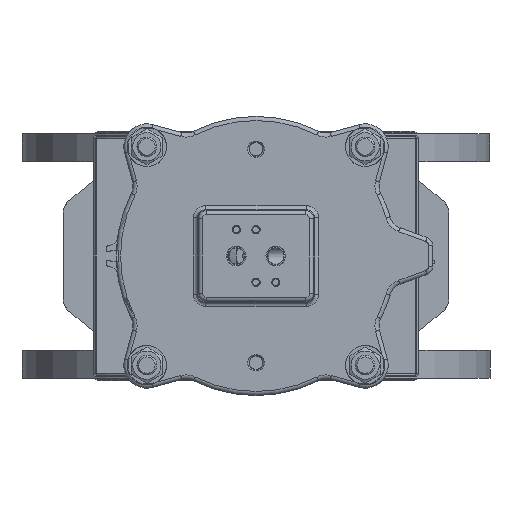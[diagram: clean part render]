
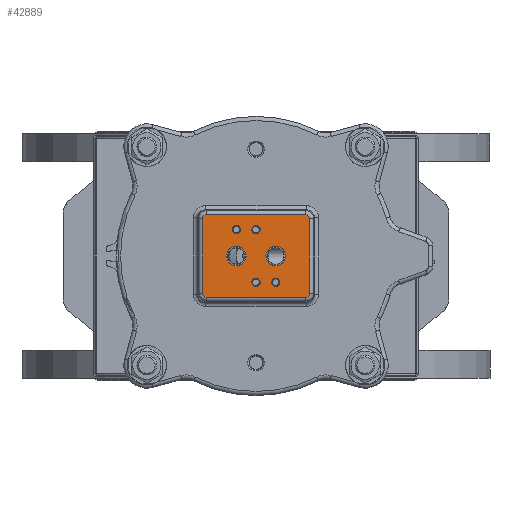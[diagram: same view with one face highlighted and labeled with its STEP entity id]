
A CAD part, left-side view. The second image highlights one B-rep face of the part: STEP entity #42889.
In plain terms, the highlighted planar face has unit normal (-1, 0, 0).
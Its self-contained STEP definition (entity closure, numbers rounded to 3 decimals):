
#1446=ELLIPSE('',#47815,2.519,2.5);
#1447=ELLIPSE('',#47816,2.519,2.5);
#1448=ELLIPSE('',#47817,2.519,2.5);
#1449=ELLIPSE('',#47818,2.519,2.5);
#1856=FACE_BOUND('',#13199,.T.);
#1857=FACE_BOUND('',#13200,.T.);
#1858=FACE_BOUND('',#13201,.T.);
#1859=FACE_BOUND('',#13202,.T.);
#1860=FACE_BOUND('',#13203,.T.);
#1861=FACE_BOUND('',#13204,.T.);
#3371=PLANE('',#47814);
#5329=LINE('',#87531,#7424);
#5330=LINE('',#87535,#7425);
#5331=LINE('',#87539,#7426);
#5332=LINE('',#87542,#7427);
#7424=VECTOR('',#59495,10.);
#7425=VECTOR('',#59498,10.);
#7426=VECTOR('',#59501,10.);
#7427=VECTOR('',#59504,10.);
#10359=FACE_OUTER_BOUND('',#13198,.T.);
#13198=EDGE_LOOP('',(#37920,#37921,#37922,#37923,#37924,#37925,#37926,#37927));
#13199=EDGE_LOOP('',(#37928));
#13200=EDGE_LOOP('',(#37929));
#13201=EDGE_LOOP('',(#37930));
#13202=EDGE_LOOP('',(#37931));
#13203=EDGE_LOOP('',(#37932));
#13204=EDGE_LOOP('',(#37933));
#16108=CIRCLE('',#47813,2.5);
#16109=CIRCLE('',#47819,2.5);
#16110=CIRCLE('',#47820,2.5);
#16111=CIRCLE('',#47821,6.);
#16112=CIRCLE('',#47822,6.);
#16113=CIRCLE('',#47823,2.5);
#20227=VERTEX_POINT('',#87523);
#20228=VERTEX_POINT('',#87527);
#20229=VERTEX_POINT('',#87528);
#20230=VERTEX_POINT('',#87530);
#20231=VERTEX_POINT('',#87532);
#20232=VERTEX_POINT('',#87534);
#20233=VERTEX_POINT('',#87536);
#20234=VERTEX_POINT('',#87538);
#20235=VERTEX_POINT('',#87540);
#20236=VERTEX_POINT('',#87543);
#20237=VERTEX_POINT('',#87545);
#20238=VERTEX_POINT('',#87547);
#20239=VERTEX_POINT('',#87549);
#20240=VERTEX_POINT('',#87551);
#26266=EDGE_CURVE('',#20227,#20227,#16108,.T.);
#26267=EDGE_CURVE('',#20228,#20229,#1446,.T.);
#26268=EDGE_CURVE('',#20230,#20228,#5329,.T.);
#26269=EDGE_CURVE('',#20231,#20230,#1447,.T.);
#26270=EDGE_CURVE('',#20232,#20231,#5330,.T.);
#26271=EDGE_CURVE('',#20233,#20232,#1448,.T.);
#26272=EDGE_CURVE('',#20234,#20233,#5331,.T.);
#26273=EDGE_CURVE('',#20235,#20234,#1449,.T.);
#26274=EDGE_CURVE('',#20229,#20235,#5332,.T.);
#26275=EDGE_CURVE('',#20236,#20236,#16109,.T.);
#26276=EDGE_CURVE('',#20237,#20237,#16110,.T.);
#26277=EDGE_CURVE('',#20238,#20238,#16111,.T.);
#26278=EDGE_CURVE('',#20239,#20239,#16112,.T.);
#26279=EDGE_CURVE('',#20240,#20240,#16113,.T.);
#37920=ORIENTED_EDGE('',*,*,#26267,.F.);
#37921=ORIENTED_EDGE('',*,*,#26268,.F.);
#37922=ORIENTED_EDGE('',*,*,#26269,.F.);
#37923=ORIENTED_EDGE('',*,*,#26270,.F.);
#37924=ORIENTED_EDGE('',*,*,#26271,.F.);
#37925=ORIENTED_EDGE('',*,*,#26272,.F.);
#37926=ORIENTED_EDGE('',*,*,#26273,.F.);
#37927=ORIENTED_EDGE('',*,*,#26274,.F.);
#37928=ORIENTED_EDGE('',*,*,#26275,.F.);
#37929=ORIENTED_EDGE('',*,*,#26276,.F.);
#37930=ORIENTED_EDGE('',*,*,#26277,.F.);
#37931=ORIENTED_EDGE('',*,*,#26278,.F.);
#37932=ORIENTED_EDGE('',*,*,#26279,.F.);
#37933=ORIENTED_EDGE('',*,*,#26266,.F.);
#42889=ADVANCED_FACE('',(#10359,#1856,#1857,#1858,#1859,#1860,#1861),#3371,
 .F.);
#47813=AXIS2_PLACEMENT_3D('',#87525,#59489,#59490);
#47814=AXIS2_PLACEMENT_3D('',#87526,#59491,#59492);
#47815=AXIS2_PLACEMENT_3D('',#87529,#59493,#59494);
#47816=AXIS2_PLACEMENT_3D('',#87533,#59496,#59497);
#47817=AXIS2_PLACEMENT_3D('',#87537,#59499,#59500);
#47818=AXIS2_PLACEMENT_3D('',#87541,#59502,#59503);
#47819=AXIS2_PLACEMENT_3D('',#87544,#59505,#59506);
#47820=AXIS2_PLACEMENT_3D('',#87546,#59507,#59508);
#47821=AXIS2_PLACEMENT_3D('',#87548,#59509,#59510);
#47822=AXIS2_PLACEMENT_3D('',#87550,#59511,#59512);
#47823=AXIS2_PLACEMENT_3D('',#87552,#59513,#59514);
#59489=DIRECTION('center_axis',(-1.,0.,0.));
#59490=DIRECTION('ref_axis',(0.,1.,0.));
#59491=DIRECTION('center_axis',(1.,0.,0.));
#59492=DIRECTION('ref_axis',(0.,1.,0.));
#59493=DIRECTION('center_axis',(1.,0.,0.));
#59494=DIRECTION('ref_axis',(0.,-0.707,-0.707));
#59495=DIRECTION('',(0.,0.,-1.));
#59496=DIRECTION('center_axis',(1.,0.,0.));
#59497=DIRECTION('ref_axis',(0.,-0.707,0.707));
#59498=DIRECTION('',(0.,-1.,0.));
#59499=DIRECTION('center_axis',(1.,0.,0.));
#59500=DIRECTION('ref_axis',(0.,0.707,0.707));
#59501=DIRECTION('',(0.,0.,1.));
#59502=DIRECTION('center_axis',(1.,0.,0.));
#59503=DIRECTION('ref_axis',(0.,0.707,-0.707));
#59504=DIRECTION('',(0.,1.,0.));
#59505=DIRECTION('center_axis',(-1.,0.,0.));
#59506=DIRECTION('ref_axis',(0.,1.,0.));
#59507=DIRECTION('center_axis',(-1.,0.,0.));
#59508=DIRECTION('ref_axis',(0.,1.,0.));
#59509=DIRECTION('center_axis',(-1.,0.,0.));
#59510=DIRECTION('ref_axis',(0.,1.,0.));
#59511=DIRECTION('center_axis',(-1.,0.,0.));
#59512=DIRECTION('ref_axis',(0.,1.,0.));
#59513=DIRECTION('center_axis',(-1.,0.,0.));
#59514=DIRECTION('ref_axis',(0.,1.,0.));
#87523=CARTESIAN_POINT('',(-990.5,9.5,16.));
#87525=CARTESIAN_POINT('Origin',(-990.5,12.,16.));
#87526=CARTESIAN_POINT('Origin',(-990.5,0.,
0.));
#87527=CARTESIAN_POINT('',(-990.5,-32.709,-22.719));
#87528=CARTESIAN_POINT('',(-990.5,-30.219,-25.209));
#87529=CARTESIAN_POINT('Origin',(-990.5,-30.2,-22.7));
#87530=CARTESIAN_POINT('',(-990.5,-32.709,22.719));
#87531=CARTESIAN_POINT('',(-990.5,-32.709,-13.75));
#87532=CARTESIAN_POINT('',(-990.5,-30.219,25.209));
#87533=CARTESIAN_POINT('Origin',(-990.5,-30.2,22.7));
#87534=CARTESIAN_POINT('',(-990.5,30.219,25.209));
#87535=CARTESIAN_POINT('',(-990.5,-17.5,25.209));
#87536=CARTESIAN_POINT('',(-990.5,32.709,22.719));
#87537=CARTESIAN_POINT('Origin',(-990.5,30.2,22.7));
#87538=CARTESIAN_POINT('',(-990.5,32.709,-22.719));
#87539=CARTESIAN_POINT('',(-990.5,32.709,13.75));
#87540=CARTESIAN_POINT('',(-990.5,30.219,-25.209));
#87541=CARTESIAN_POINT('Origin',(-990.5,30.2,-22.7));
#87542=CARTESIAN_POINT('',(-990.5,17.5,-25.209));
#87543=CARTESIAN_POINT('',(-990.5,-2.5,16.));
#87544=CARTESIAN_POINT('Origin',(-990.5,0.,
16.));
#87545=CARTESIAN_POINT('',(-990.5,-14.5,-16.));
#87546=CARTESIAN_POINT('Origin',(-990.5,-12.,-16.));
#87547=CARTESIAN_POINT('',(-990.5,-18.,0.));
#87548=CARTESIAN_POINT('Origin',(-990.5,-12.,0.));
#87549=CARTESIAN_POINT('',(-990.5,6.,0.));
#87550=CARTESIAN_POINT('Origin',(-990.5,12.,0.));
#87551=CARTESIAN_POINT('',(-990.5,-2.5,-16.));
#87552=CARTESIAN_POINT('Origin',(-990.5,0.,
-16.));
